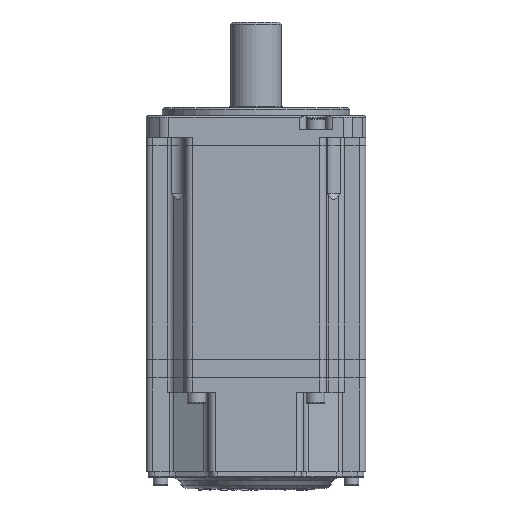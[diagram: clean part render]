
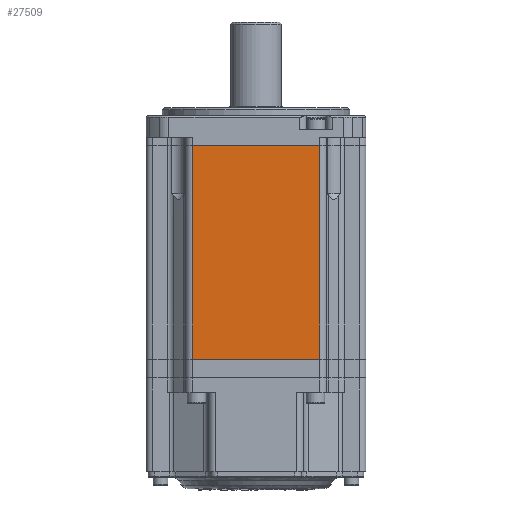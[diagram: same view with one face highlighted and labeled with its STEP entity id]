
A CAD part, front view. The second image highlights one B-rep face of the part: STEP entity #27509.
In plain terms, the highlighted planar face has unit normal (0, -1, 0).
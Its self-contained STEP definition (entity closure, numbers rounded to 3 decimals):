
#2219 = VERTEX_POINT ( 'NONE', #32692 ) ;
#2271 = LINE ( 'NONE', #18920, #46359 ) ;
#5224 = EDGE_CURVE ( 'NONE', #18885, #8160, #20292, .T. ) ;
#6187 = ORIENTED_EDGE ( 'NONE', *, *, #47321, .F. ) ;
#7450 = CARTESIAN_POINT ( 'NONE',  ( -23.75, -41., 79.7 ) ) ;
#8160 = VERTEX_POINT ( 'NONE', #7450 ) ;
#9796 = LINE ( 'NONE', #20412, #34806 ) ;
#13047 = ORIENTED_EDGE ( 'NONE', *, *, #31947, .T. ) ;
#13096 = CARTESIAN_POINT ( 'NONE',  ( 23.75, -41., 0. ) ) ;
#14008 = FACE_OUTER_BOUND ( 'NONE', #47947, .T. ) ;
#15148 = DIRECTION ( 'NONE',  ( 1., 0., 0. ) ) ;
#15370 = CARTESIAN_POINT ( 'NONE',  ( 23.75, -41., 79.7 ) ) ;
#17834 = DIRECTION ( 'NONE',  ( -1., 0., 0. ) ) ;
#18885 = VERTEX_POINT ( 'NONE', #15370 ) ;
#18920 = CARTESIAN_POINT ( 'NONE',  ( -23.75, -41., 0. ) ) ;
#20292 = LINE ( 'NONE', #53023, #52825 ) ;
#20412 = CARTESIAN_POINT ( 'NONE',  ( -23.75, -41., 1000. ) ) ;
#20778 = DIRECTION ( 'NONE',  ( 0., 0., 1. ) ) ;
#27201 = DIRECTION ( 'NONE',  ( 0., 0., -1. ) ) ;
#27509 = ADVANCED_FACE ( 'NONE', ( #14008 ), #46363, .F. ) ;
#31947 = EDGE_CURVE ( 'NONE', #2219, #51249, #2271, .T. ) ;
#31966 = AXIS2_PLACEMENT_3D ( 'NONE', #42544, #37809, #20778 ) ;
#32692 = CARTESIAN_POINT ( 'NONE',  ( -23.75, -41., 0. ) ) ;
#34806 = VECTOR ( 'NONE', #39805, 1000. ) ;
#35323 = CARTESIAN_POINT ( 'NONE',  ( 23.75, -41., 1000. ) ) ;
#37809 = DIRECTION ( 'NONE',  ( 0., 1., 0. ) ) ;
#39805 = DIRECTION ( 'NONE',  ( 0., 0., -1. ) ) ;
#42544 = CARTESIAN_POINT ( 'NONE',  ( -23.75, -41., 1000. ) ) ;
#43490 = ORIENTED_EDGE ( 'NONE', *, *, #54359, .T. ) ;
#46359 = VECTOR ( 'NONE', #15148, 1000. ) ;
#46363 = PLANE ( 'NONE',  #31966 ) ;
#47321 = EDGE_CURVE ( 'NONE', #18885, #51249, #54427, .T. ) ;
#47631 = VECTOR ( 'NONE', #27201, 1000. ) ;
#47947 = EDGE_LOOP ( 'NONE', ( #6187, #51942, #43490, #13047 ) ) ;
#51249 = VERTEX_POINT ( 'NONE', #13096 ) ;
#51942 = ORIENTED_EDGE ( 'NONE', *, *, #5224, .T. ) ;
#52825 = VECTOR ( 'NONE', #17834, 1000. ) ;
#53023 = CARTESIAN_POINT ( 'NONE',  ( -198.803, -41., 79.7 ) ) ;
#54359 = EDGE_CURVE ( 'NONE', #8160, #2219, #9796, .T. ) ;
#54427 = LINE ( 'NONE', #35323, #47631 ) ;
